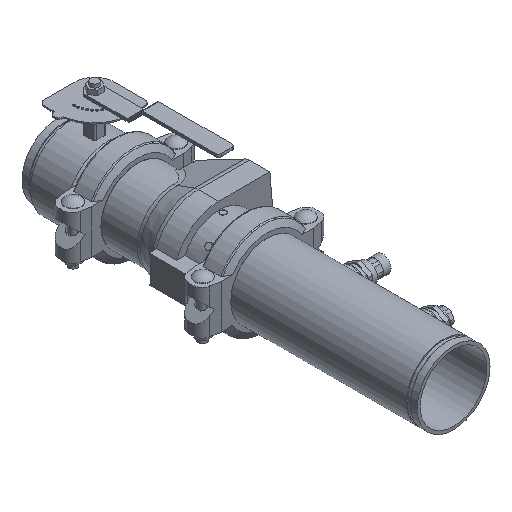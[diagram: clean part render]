
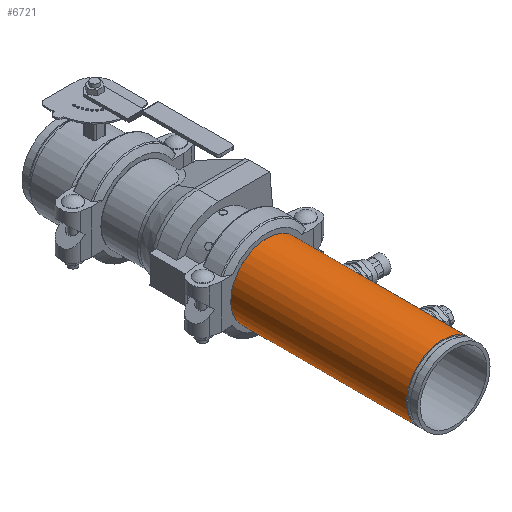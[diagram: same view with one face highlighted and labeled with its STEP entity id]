
A CAD part, isometric view. The second image highlights one B-rep face of the part: STEP entity #6721.
In plain terms, the highlighted cylindrical face has radius 84.138 mm (diameter 168.275 mm), a full revolution.
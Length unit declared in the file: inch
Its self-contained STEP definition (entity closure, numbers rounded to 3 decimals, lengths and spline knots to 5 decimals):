
#151=LINE('',#10160,#669);
#669=VECTOR('',#8072,3.3125);
#1187=CYLINDRICAL_SURFACE('',#7264,3.3125);
#1394=FACE_OUTER_BOUND('',#1770,.T.);
#1770=EDGE_LOOP('',(#4209,#4210,#4211,#4212,#4213,#4214));
#2219=CIRCLE('',#7262,3.3125);
#2220=CIRCLE('',#7263,3.3125);
#2221=CIRCLE('',#7265,3.3125);
#2222=CIRCLE('',#7266,3.3125);
#2595=VERTEX_POINT('',#10151);
#2596=VERTEX_POINT('',#10152);
#2597=VERTEX_POINT('',#10156);
#2598=VERTEX_POINT('',#10157);
#3240=EDGE_CURVE('',#2595,#2596,#2219,.T.);
#3241=EDGE_CURVE('',#2596,#2595,#2220,.T.);
#3242=EDGE_CURVE('',#2597,#2598,#2221,.T.);
#3243=EDGE_CURVE('',#2598,#2597,#2222,.T.);
#3244=EDGE_CURVE('',#2598,#2596,#151,.T.);
#4209=ORIENTED_EDGE('',*,*,#3242,.F.);
#4210=ORIENTED_EDGE('',*,*,#3243,.F.);
#4211=ORIENTED_EDGE('',*,*,#3244,.T.);
#4212=ORIENTED_EDGE('',*,*,#3241,.T.);
#4213=ORIENTED_EDGE('',*,*,#3240,.T.);
#4214=ORIENTED_EDGE('',*,*,#3244,.F.);
#6721=ADVANCED_FACE('',(#1394),#1187,.T.);
#7262=AXIS2_PLACEMENT_3D('',#10153,#8062,#8063);
#7263=AXIS2_PLACEMENT_3D('',#10154,#8064,#8065);
#7264=AXIS2_PLACEMENT_3D('',#10155,#8066,#8067);
#7265=AXIS2_PLACEMENT_3D('',#10158,#8068,#8069);
#7266=AXIS2_PLACEMENT_3D('',#10159,#8070,#8071);
#8062=DIRECTION('center_axis',(1.,0.,0.));
#8063=DIRECTION('ref_axis',(0.,0.,-1.));
#8064=DIRECTION('center_axis',(1.,0.,0.));
#8065=DIRECTION('ref_axis',(0.,0.,-1.));
#8066=DIRECTION('center_axis',(1.,0.,0.));
#8067=DIRECTION('ref_axis',(0.,1.,0.));
#8068=DIRECTION('center_axis',(1.,0.,0.));
#8069=DIRECTION('ref_axis',(0.,0.,-1.));
#8070=DIRECTION('center_axis',(1.,0.,0.));
#8071=DIRECTION('ref_axis',(0.,0.,-1.));
#8072=DIRECTION('',(-1.,0.,0.));
#10151=CARTESIAN_POINT('',(-8.031,3.3125,0.));
#10152=CARTESIAN_POINT('',(-8.031,-3.3125,0.));
#10153=CARTESIAN_POINT('Origin',(-8.031,0.,0.));
#10154=CARTESIAN_POINT('Origin',(-8.031,0.,0.));
#10155=CARTESIAN_POINT('Origin',(0.,0.,0.));
#10156=CARTESIAN_POINT('',(8.031,3.3125,0.));
#10157=CARTESIAN_POINT('',(8.031,-3.3125,0.));
#10158=CARTESIAN_POINT('Origin',(8.031,0.,0.));
#10159=CARTESIAN_POINT('Origin',(8.031,0.,0.));
#10160=CARTESIAN_POINT('',(0.,-3.3125,0.));
